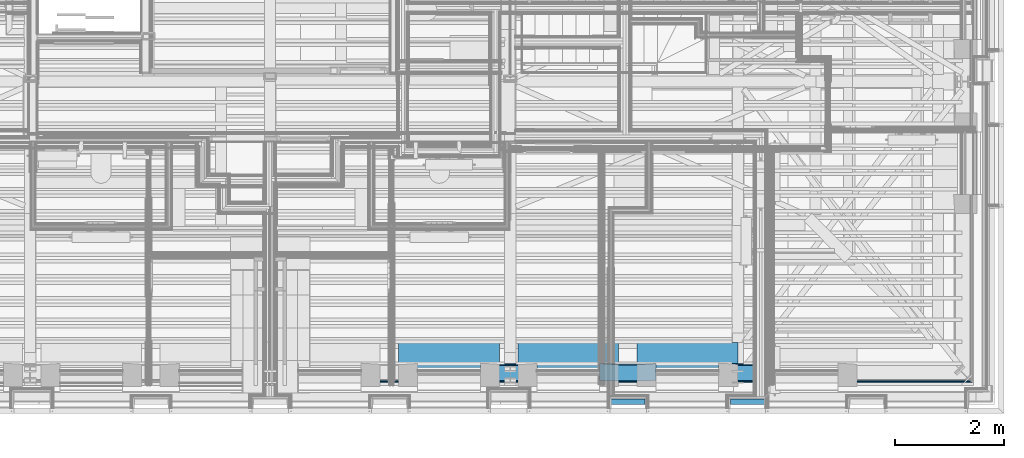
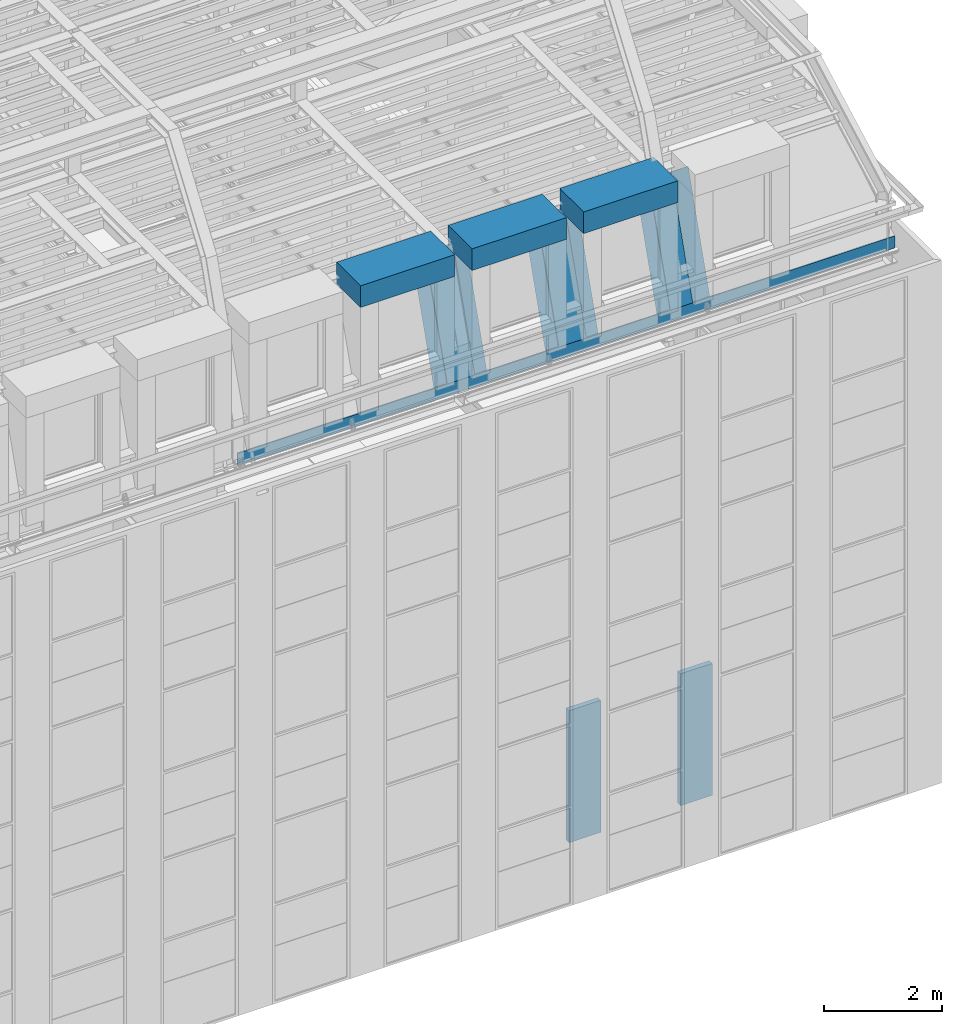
# One storey, part 18 of 183: 12 walls.
"""IFC2X3 building model written with IfcOpenShell, lengths in metres."""

from ifc_helpers import new_model, entity, si_unit, converted_unit, derived_unit, money_unit, direction, frame, frame_2d, origin_with_axes, place, context, subcontext, project, spatial, polyline, rectangle, outline, extrude, material, layer, layer_set, layer_usage, type_object, element, save


model = new_model("IFC2X3")

# Units and contexts
model_context = context("Model", 3, precision=1e-05, world=origin_with_axes(), true_north=direction((0.0, 1.0)))
body_context = subcontext(model_context, "Body", "Model", "MODEL_VIEW", scale=1.0)
ifc_project = project(units=[si_unit("LENGTHUNIT", "METRE"), si_unit("AREAUNIT", "SQUARE_METRE"), si_unit("VOLUMEUNIT", "CUBIC_METRE"), si_unit("ABSORBEDDOSEUNIT", "GRAY"), si_unit("AMOUNTOFSUBSTANCEUNIT", "MOLE"), si_unit("DOSEEQUIVALENTUNIT", "SIEVERT"), si_unit("ELECTRICCAPACITANCEUNIT", "FARAD"), si_unit("ELECTRICCHARGEUNIT", "COULOMB"), si_unit("ELECTRICCONDUCTANCEUNIT", "SIEMENS"), si_unit("ELECTRICCURRENTUNIT", "AMPERE"), si_unit("ELECTRICRESISTANCEUNIT", "OHM"), si_unit("ELECTRICVOLTAGEUNIT", "VOLT"), si_unit("ENERGYUNIT", "JOULE"), si_unit("FORCEUNIT", "NEWTON"), si_unit("FREQUENCYUNIT", "HERTZ"), si_unit("ILLUMINANCEUNIT", "LUX"), si_unit("INDUCTANCEUNIT", "HENRY"), si_unit("LUMINOUSFLUXUNIT", "LUMEN"), si_unit("LUMINOUSINTENSITYUNIT", "CANDELA"), si_unit("MAGNETICFLUXDENSITYUNIT", "TESLA"), si_unit("MAGNETICFLUXUNIT", "WEBER"), si_unit("MASSUNIT", "GRAM"), converted_unit("PLANEANGLEUNIT", "degree", entity("IfcReal", 0.0174532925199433), si_unit("PLANEANGLEUNIT", "RADIAN"), dimensions=[0, 0, 0, 0, 0, 0, 0]), si_unit("POWERUNIT", "WATT"), si_unit("PRESSUREUNIT", "PASCAL"), si_unit("RADIOACTIVITYUNIT", "BECQUEREL"), si_unit("SOLIDANGLEUNIT", "STERADIAN"), si_unit("THERMODYNAMICTEMPERATUREUNIT", "KELVIN"), si_unit("TIMEUNIT", "SECOND"), derived_unit("ACCELERATIONUNIT", [(si_unit("LENGTHUNIT", "METRE"), 1), (si_unit("TIMEUNIT", "SECOND"), -2)]), derived_unit("ANGULARVELOCITYUNIT", [(converted_unit("PLANEANGLEUNIT", "degree", entity("IfcReal", 0.0174532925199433), si_unit("PLANEANGLEUNIT", "RADIAN"), dimensions=[0, 0, 0, 0, 0, 0, 0]), 1), (si_unit("TIMEUNIT", "SECOND"), -1)]), derived_unit("CURVATUREUNIT", [(converted_unit("PLANEANGLEUNIT", "degree", entity("IfcReal", 0.0174532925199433), si_unit("PLANEANGLEUNIT", "RADIAN"), dimensions=[0, 0, 0, 0, 0, 0, 0]), 1), (si_unit("LENGTHUNIT", "METRE"), -1)]), derived_unit("DYNAMICVISCOSITYUNIT", [(si_unit("PRESSUREUNIT", "PASCAL"), 1), (si_unit("TIMEUNIT", "SECOND"), 1)]), derived_unit("HEATFLUXDENSITYUNIT", [(si_unit("POWERUNIT", "WATT"), 1), (si_unit("LENGTHUNIT", "METRE"), -2)]), derived_unit("HEATINGVALUEUNIT", [(si_unit("ENERGYUNIT", "JOULE"), 1), (si_unit("MASSUNIT", "GRAM"), -1)]), derived_unit("INTEGERCOUNTRATEUNIT", [(si_unit("TIMEUNIT", "SECOND"), -1)]), derived_unit("IONCONCENTRATIONUNIT", [(si_unit("MASSUNIT", "GRAM"), 1), (si_unit("VOLUMEUNIT", "CUBIC_METRE"), -1)]), derived_unit("ISOTHERMALMOISTURECAPACITYUNIT", [(si_unit("VOLUMEUNIT", "CUBIC_METRE"), 1), (si_unit("MASSUNIT", "GRAM"), -1)]), derived_unit("KINEMATICVISCOSITYUNIT", [(si_unit("AREAUNIT", "SQUARE_METRE"), 1), (si_unit("TIMEUNIT", "SECOND"), -1)]), derived_unit("LINEARFORCEUNIT", [(si_unit("FORCEUNIT", "NEWTON"), 1), (si_unit("LENGTHUNIT", "METRE"), -1)]), derived_unit("LINEARMOMENTUNIT", [(si_unit("FORCEUNIT", "NEWTON"), 1), (si_unit("LENGTHUNIT", "METRE"), -1)]), derived_unit("LINEARSTIFFNESSUNIT", [(si_unit("FORCEUNIT", "NEWTON"), 1), (si_unit("LENGTHUNIT", "METRE"), -1)]), derived_unit("LINEARVELOCITYUNIT", [(si_unit("LENGTHUNIT", "METRE"), 1), (si_unit("TIMEUNIT", "SECOND"), -1)]), derived_unit("LUMINOUSINTENSITYDISTRIBUTIONUNIT", [(si_unit("LUMINOUSINTENSITYUNIT", "CANDELA"), 1), (si_unit("LUMINOUSFLUXUNIT", "LUMEN"), -1)]), derived_unit("MASSDENSITYUNIT", [(si_unit("MASSUNIT", "GRAM"), 1), (si_unit("VOLUMEUNIT", "CUBIC_METRE"), -1)]), derived_unit("MASSFLOWRATEUNIT", [(si_unit("MASSUNIT", "GRAM"), 1), (si_unit("TIMEUNIT", "SECOND"), -1)]), derived_unit("MASSPERLENGTHUNIT", [(si_unit("MASSUNIT", "GRAM"), 1), (si_unit("LENGTHUNIT", "METRE"), -1)]), derived_unit("MODULUSOFELASTICITYUNIT", [(si_unit("FORCEUNIT", "NEWTON"), 1), (si_unit("AREAUNIT", "SQUARE_METRE"), -1)]), derived_unit("MODULUSOFLINEARSUBGRADEREACTIONUNIT", [(si_unit("FORCEUNIT", "NEWTON"), 1), (si_unit("LENGTHUNIT", "METRE"), -2)]), derived_unit("MODULUSOFROTATIONALSUBGRADEREACTIONUNIT", [(si_unit("FORCEUNIT", "NEWTON"), 1), (si_unit("LENGTHUNIT", "METRE"), 1)]), derived_unit("MODULUSOFSUBGRADEREACTIONUNIT", [(si_unit("FORCEUNIT", "NEWTON"), 1), (si_unit("VOLUMEUNIT", "CUBIC_METRE"), -1)]), derived_unit("MOISTUREDIFFUSIVITYUNIT", [(si_unit("VOLUMEUNIT", "CUBIC_METRE"), 1), (si_unit("TIMEUNIT", "SECOND"), -1)]), derived_unit("MOLECULARWEIGHTUNIT", [(si_unit("MASSUNIT", "GRAM"), 1), (si_unit("AMOUNTOFSUBSTANCEUNIT", "MOLE"), -1)]), derived_unit("PLANARFORCEUNIT", [(si_unit("FORCEUNIT", "NEWTON"), 1), (si_unit("LENGTHUNIT", "METRE"), -2)]), derived_unit("ROTATIONALFREQUENCYUNIT", [(si_unit("TIMEUNIT", "SECOND"), -1)]), derived_unit("ROTATIONALMASSUNIT", [(si_unit("MASSUNIT", "GRAM"), 1), (si_unit("LENGTHUNIT", "METRE"), 2)]), derived_unit("ROTATIONALSTIFFNESSUNIT", [(si_unit("FORCEUNIT", "NEWTON"), 1), (si_unit("LENGTHUNIT", "METRE"), 1), (converted_unit("PLANEANGLEUNIT", "degree", entity("IfcReal", 0.0174532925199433), si_unit("PLANEANGLEUNIT", "RADIAN"), dimensions=[0, 0, 0, 0, 0, 0, 0]), -1)]), derived_unit("SECTIONAREAINTEGRALUNIT", [(si_unit("LENGTHUNIT", "METRE"), 5)]), derived_unit("SECTIONMODULUSUNIT", [(si_unit("LENGTHUNIT", "METRE"), 3)]), derived_unit("SHEARMODULUSUNIT", [(si_unit("FORCEUNIT", "NEWTON"), 1), (si_unit("AREAUNIT", "SQUARE_METRE"), -1)]), derived_unit("SOUNDPOWERUNIT", [(si_unit("ENERGYUNIT", "JOULE"), 1), (si_unit("TIMEUNIT", "SECOND"), -1)]), derived_unit("SPECIFICHEATCAPACITYUNIT", [(si_unit("FORCEUNIT", "NEWTON"), 1), (si_unit("MASSUNIT", "GRAM"), -1), (si_unit("THERMODYNAMICTEMPERATUREUNIT", "KELVIN"), -1)]), derived_unit("TEMPERATUREGRADIENTUNIT", [(si_unit("THERMODYNAMICTEMPERATUREUNIT", "KELVIN"), 1), (si_unit("LENGTHUNIT", "METRE"), -1)]), derived_unit("THERMALADMITTANCEUNIT", [(si_unit("POWERUNIT", "WATT"), 1), (si_unit("AREAUNIT", "SQUARE_METRE"), -1), (si_unit("THERMODYNAMICTEMPERATUREUNIT", "KELVIN"), -1)]), derived_unit("THERMALCONDUCTANCEUNIT", [(si_unit("POWERUNIT", "WATT"), 1), (si_unit("LENGTHUNIT", "METRE"), -1), (si_unit("THERMODYNAMICTEMPERATUREUNIT", "KELVIN"), -1)]), derived_unit("THERMALEXPANSIONCOEFFICIENTUNIT", [(si_unit("THERMODYNAMICTEMPERATUREUNIT", "KELVIN"), -1)]), derived_unit("THERMALRESISTANCEUNIT", [(si_unit("AREAUNIT", "SQUARE_METRE"), 1), (si_unit("POWERUNIT", "WATT"), -1)]), derived_unit("THERMALTRANSMITTANCEUNIT", [(si_unit("POWERUNIT", "WATT"), 1), (si_unit("AREAUNIT", "SQUARE_METRE"), -1), (si_unit("THERMODYNAMICTEMPERATUREUNIT", "KELVIN"), -1)]), derived_unit("TORQUEUNIT", [(si_unit("FORCEUNIT", "NEWTON"), 1), (si_unit("LENGTHUNIT", "METRE"), 1)]), derived_unit("VAPORPERMEABILITYUNIT", [(si_unit("MASSUNIT", "GRAM"), 1), (si_unit("TIMEUNIT", "SECOND"), -1)]), derived_unit("VOLUMETRICFLOWRATEUNIT", [(si_unit("VOLUMEUNIT", "CUBIC_METRE"), 1), (si_unit("TIMEUNIT", "SECOND"), -1)]), derived_unit("WARPINGCONSTANTUNIT", [(si_unit("LENGTHUNIT", "METRE"), 6)]), derived_unit("WARPINGMOMENTUNIT", [(si_unit("FORCEUNIT", "NEWTON"), 1), (si_unit("LENGTHUNIT", "METRE"), 2)]), money_unit("GBP")], contexts=[model_context])

# Site, building, storey
site_placement = place(None, origin_with_axes())
site = spatial("IfcSite", under=ifc_project, at=site_placement, Name="Site", CompositionType="ELEMENT")
building_placement = place(site_placement, origin_with_axes())
building = spatial("IfcBuilding", under=site, at=building_placement, Name="Building01", CompositionType="ELEMENT")
storey_placement = place(building_placement, frame((0.0, 0.0, 5.15), z_axis=(0.0, 0.0, 1.0), x_axis=(1.0, 0.0, 0.0)))
storey = spatial("IfcBuildingStorey", under=building, at=storey_placement, Name="1F", CompositionType="ELEMENT", Elevation=5.15)

# Walls
ifc_material_1 = material(Name="A_BSUK_WallsExternal_Block")
ifc_layer_1 = layer(ifc_material_1, 0.1, ventilated=False)
ifc_layer_set_1 = layer_set([ifc_layer_1])
ifc_layer_usage_1 = layer_usage(ifc_layer_set_1, "AXIS2", "POSITIVE", 0.0)
wall_type_1 = type_object("IfcWallType", Name="A-Walls-ExternalBlock", PredefinedType="NOTDEFINED")
for number, where, z_axis, x_axis, name in (
    (1, (20.387, 0.27, 0.0), (0.0, 0.0, 1.0), (-1.0, 0.0, 0.0), "A-Walls-ExternalBlock"),
    (2, (22.577, 0.27, 0.0), (0.0, 0.0, 1.0), (-1.0, 0.0, 0.0), "A-Walls-ExternalBlock"),
):
    element("IfcWallStandardCase", number, at=place(storey_placement, frame(where, z_axis=z_axis, x_axis=x_axis)), inside=storey, type_object=wall_type_1, material=ifc_layer_usage_1, Name=name, ObjectType="A-Walls-ExternalBlock", context=body_context, shape_type="SweptSolid", body=[
        extrude(rectangle(XDim=0.624, YDim=0.1, at=frame_2d((0.312, 0.05), x_axis=(-1.0, 0.0))), origin_with_axes(), (0.0, 0.0, 1.0), 2.74),
    ])
ifc_material_2 = material(Name="A_BSUK_WallsInternal")
ifc_layer_2 = layer(ifc_material_2, 0.025, ventilated=False)
ifc_layer_set_2 = layer_set([ifc_layer_2])
ifc_layer_usage_2 = layer_usage(ifc_layer_set_2, "AXIS2", "POSITIVE", 0.0)
wall_type_2 = type_object("IfcWallType", Name="A-Walls-Internal", PredefinedType="NOTDEFINED")
wall_1_placement = place(storey_placement, frame((26.4012, 0.5788, 9.78), z_axis=(0.0, 0.0, 1.0), x_axis=(-1.0, 0.0, 0.0)))
element("IfcWallStandardCase", 3, at=wall_1_placement, inside=storey, type_object=wall_type_2, material=ifc_layer_usage_2, Name="7C", ObjectType="A-Walls-Internal", context=body_context, shape_type="SweptSolid", body=[
    extrude(outline(polyline([(0.0, 0.0), (0.025, -0.025), (12.9112, -0.025), (12.9112, 0.0), (0.0, 0.0)])), origin_with_axes(), (0.0, 0.0, 1.0), 0.25),
])
ifc_material_3 = material(Name="A_BSUK_Roofs")
wall_type_3 = type_object("IfcWallType", Name="A-Walls-ExternalBlock", PredefinedType="NOTDEFINED")
for number, where, z_axis, x_axis, name in (
    (4, (15.860024, 1.31, 12.729998), (1.0, 0.0, 0.0), (0.0, -1.0, 0.0), "7C"),
    (5, (20.240024, 1.31, 12.729998), (1.0, 0.0, 0.0), (0.0, -1.0, 0.0), "7C"),
    (6, (18.050024, 1.31, 12.729998), (1.0, 0.0, 0.0), (0.0, -1.0, 0.0), "7C"),
):
    element("IfcWall", number, at=place(storey_placement, frame(where, z_axis=z_axis, x_axis=x_axis)), inside=storey, type_object=wall_type_3, material=ifc_material_3, Name=name, ObjectType="A-Walls-ExternalBlock", context=body_context, shape_type="SweptSolid", body=[
        extrude(rectangle(XDim=0.81, YDim=0.45, at=frame_2d((0.405, 0.225), x_axis=(1.0, 0.0))), origin_with_axes(), (0.0, 0.0, 1.0), 1.849951),
    ])
wall_type_4 = type_object("IfcWallType", Name="A-Walls-Internal", PredefinedType="NOTDEFINED")
for number, where, z_axis, x_axis, name in (
    (7, (17.609976, 0.5788, 10.03), (0.0, 0.30901699, 0.95105652), (1.0, 0.0, 0.0), "7C"),
    (8, (19.799976, 0.5788, 10.03), (0.0, 0.30901699, 0.95105652), (1.0, 0.0, 0.0), "7C"),
):
    element("IfcWall", number, at=place(storey_placement, frame(where, z_axis=z_axis, x_axis=x_axis)), inside=storey, type_object=wall_type_4, material=ifc_material_2, Name=name, ObjectType="A-Walls-Internal", context=body_context, shape_type="SweptSolid", body=[
        extrude(rectangle(XDim=0.540049, YDim=0.015, at=frame_2d((0.270024, 0.0075), x_axis=(-1.0, 0.0))), origin_with_axes(), (0.0, 0.0, 1.0), 2.373987),
    ])
wall_2_placement = place(storey_placement, frame((21.989976, 0.5788, 10.03), z_axis=(0.0, 0.30901699, 0.95105652), x_axis=(1.0, 0.0, 0.0)))
element("IfcWall", 9, at=wall_2_placement, inside=storey, type_object=wall_type_4, material=ifc_material_2, Name="7C", ObjectType="A-Walls-Internal", context=body_context, shape_type="SweptSolid", body=[
    extrude(rectangle(XDim=0.440049, YDim=0.015, at=frame_2d((0.220024, 0.0075), x_axis=(-1.0, 0.0))), origin_with_axes(), (0.0, 0.0, 1.0), 2.373987),
])
for number, where, z_axis, x_axis, name in (
    (10, (21.989976, 0.594428, 10.029557), (0.0, 0.30901699, 0.95105652), (1.0, 0.0, 0.0), "7C"),
    (11, (19.799976, 0.594428, 10.029557), (0.0, 0.30901699, 0.95105652), (1.0, 0.0, 0.0), "7C"),
    (12, (17.609976, 0.594428, 10.029557), (0.0, 0.30901699, 0.95105652), (1.0, 0.0, 0.0), "7C"),
):
    element("IfcWall", number, at=place(storey_placement, frame(where, z_axis=z_axis, x_axis=x_axis)), inside=storey, type_object=wall_type_4, material=ifc_material_2, Name=name, ObjectType="A-Walls-Internal", context=body_context, shape_type="SweptSolid", body=[
        extrude(outline(polyline([(0.790049, 0.015), (-0.25, 0.015), (0.0, 0.0), (0.540049, 0.0), (0.790049, 0.015)])), origin_with_axes(), (0.0, 0.0, 1.0), 2.373987),
    ])

save(model, "model.ifc")
